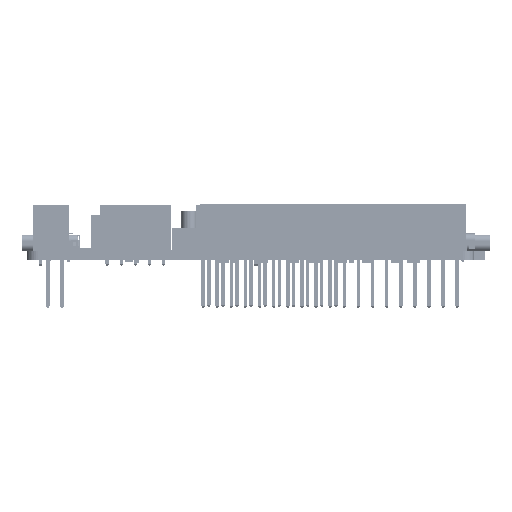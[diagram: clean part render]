
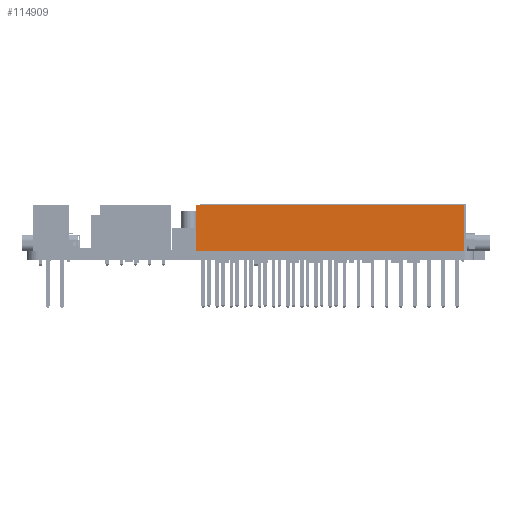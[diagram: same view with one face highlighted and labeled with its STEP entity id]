
A CAD part, left-side view. The second image highlights one B-rep face of the part: STEP entity #114909.
In plain terms, the highlighted planar face has unit normal (-1, 0, 0).
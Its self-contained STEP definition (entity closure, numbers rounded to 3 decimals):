
#114811 = EDGE_CURVE('',#114812,#114814,#114816,.T.);
#114812 = VERTEX_POINT('',#114813);
#114813 = CARTESIAN_POINT('',(-2.545,24.132,0.));
#114814 = VERTEX_POINT('',#114815);
#114815 = CARTESIAN_POINT('',(-2.545,24.132,8.38));
#114816 = LINE('',#114817,#114818);
#114817 = CARTESIAN_POINT('',(-2.545,24.132,0.));
#114818 = VECTOR('',#114819,1.);
#114819 = DIRECTION('',(0.,0.,1.));
#114884 = VERTEX_POINT('',#114885);
#114885 = CARTESIAN_POINT('',(-2.545,-24.132,8.38));
#114891 = EDGE_CURVE('',#114892,#114884,#114894,.T.);
#114892 = VERTEX_POINT('',#114893);
#114893 = CARTESIAN_POINT('',(-2.545,-24.132,0.));
#114894 = LINE('',#114895,#114896);
#114895 = CARTESIAN_POINT('',(-2.545,-24.132,0.));
#114896 = VECTOR('',#114897,1.);
#114897 = DIRECTION('',(0.,0.,1.));
#114909 = ADVANCED_FACE('',(#114910),#114926,.T.);
#114910 = FACE_BOUND('',#114911,.T.);
#114911 = EDGE_LOOP('',(#114912,#114913,#114919,#114920));
#114912 = ORIENTED_EDGE('',*,*,#114891,.T.);
#114913 = ORIENTED_EDGE('',*,*,#114914,.T.);
#114914 = EDGE_CURVE('',#114884,#114814,#114915,.T.);
#114915 = LINE('',#114916,#114917);
#114916 = CARTESIAN_POINT('',(-2.545,-24.132,8.38));
#114917 = VECTOR('',#114918,1.);
#114918 = DIRECTION('',(0.,1.,0.));
#114919 = ORIENTED_EDGE('',*,*,#114811,.F.);
#114920 = ORIENTED_EDGE('',*,*,#114921,.F.);
#114921 = EDGE_CURVE('',#114892,#114812,#114922,.T.);
#114922 = LINE('',#114923,#114924);
#114923 = CARTESIAN_POINT('',(-2.545,-24.132,0.));
#114924 = VECTOR('',#114925,1.);
#114925 = DIRECTION('',(0.,1.,0.));
#114926 = PLANE('',#114927);
#114927 = AXIS2_PLACEMENT_3D('',#114928,#114929,#114930);
#114928 = CARTESIAN_POINT('',(-2.545,-24.132,0.));
#114929 = DIRECTION('',(-1.,0.,0.));
#114930 = DIRECTION('',(0.,1.,0.));
